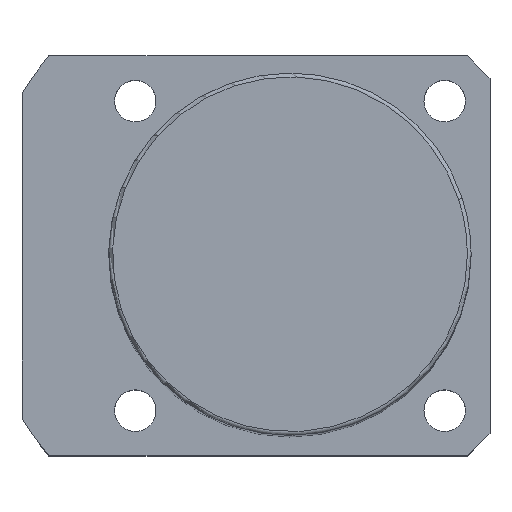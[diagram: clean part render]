
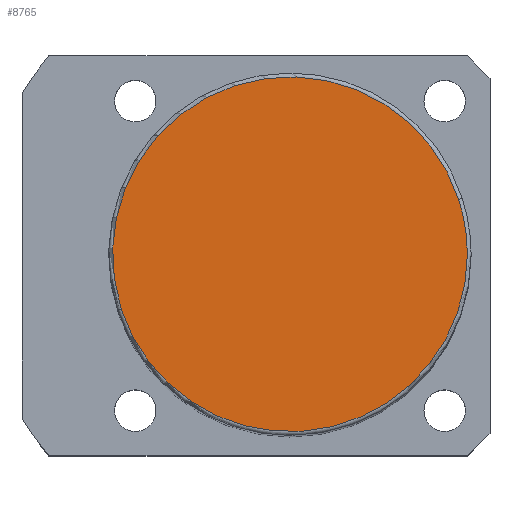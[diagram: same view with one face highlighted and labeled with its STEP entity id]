
A CAD part, top view. The second image highlights one B-rep face of the part: STEP entity #8765.
In plain terms, the highlighted planar face has unit normal (0, 0, 1).
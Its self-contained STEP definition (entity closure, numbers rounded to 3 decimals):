
#8698=CARTESIAN_POINT('',(22.35,7.262,134.0));
#8699=VERTEX_POINT('',#8698);
#8717=CARTESIAN_POINT('',(-22.35,-7.262,134.0));
#8718=VERTEX_POINT('',#8717);
#8726=CARTESIAN_POINT('',(0.0,0.0,134.0));
#8727=DIRECTION('',(0.0,0.0,1.0));
#8728=DIRECTION('',(1.0,0.0,0.0));
#8729=AXIS2_PLACEMENT_3D('',#8726,#8727,#8728);
#8730=CIRCLE('',#8729,23.5);
#8731=EDGE_CURVE('no 4121',#8699,#8718,#8730,.T.);
#8741=CARTESIAN_POINT('',(23.5,0.0,134.0));
#8742=VERTEX_POINT('',#8741);
#8743=CARTESIAN_POINT('',(0.0,0.0,134.0));
#8744=DIRECTION('',(0.0,0.0,1.0));
#8745=DIRECTION('',(1.0,0.0,0.0));
#8746=AXIS2_PLACEMENT_3D('',#8743,#8744,#8745);
#8747=CIRCLE('',#8746,23.5);
#8748=EDGE_CURVE('no 4130',#8742,#8699,#8747,.T.);
#8749=ORIENTED_EDGE('',*,*,#8748,.T.);
#8750=ORIENTED_EDGE('',*,*,#8731,.T.);
#8751=CARTESIAN_POINT('',(0.0,0.0,134.0));
#8752=DIRECTION('',(0.0,0.0,1.0));
#8753=DIRECTION('',(1.0,0.0,0.0));
#8754=AXIS2_PLACEMENT_3D('',#8751,#8752,#8753);
#8755=CIRCLE('',#8754,23.5);
#8756=EDGE_CURVE('no 4136',#8718,#8742,#8755,.T.);
#8757=ORIENTED_EDGE('',*,*,#8756,.T.);
#8758=EDGE_LOOP('',(#8749,#8750,#8757));
#8759=FACE_OUTER_BOUND('',#8758,.T.);
#8760=CARTESIAN_POINT('',(0.0,0.0,134.0));
#8761=DIRECTION('',(0.0,0.0,1.0));
#8762=DIRECTION('',(1.0,0.0,0.0));
#8763=AXIS2_PLACEMENT_3D('',#8760,#8761,#8762);
#8764=PLANE('',#8763);
#8765=ADVANCED_FACE('no 4123',(#8759),#8764,.T.);
